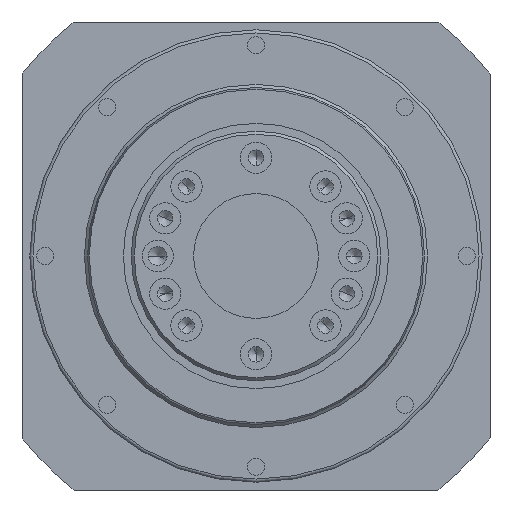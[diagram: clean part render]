
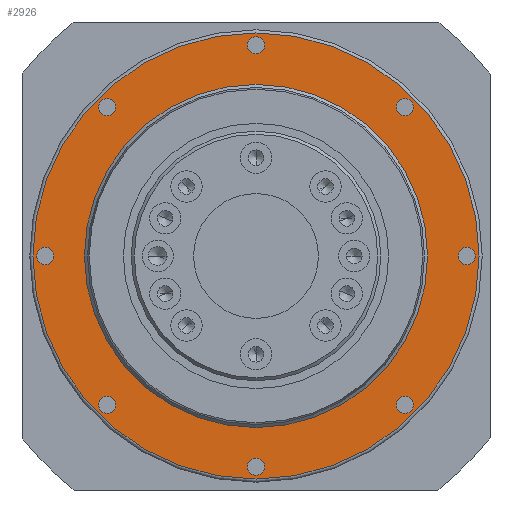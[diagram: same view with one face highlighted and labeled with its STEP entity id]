
A CAD part, left-side view. The second image highlights one B-rep face of the part: STEP entity #2926.
In plain terms, the highlighted planar face has unit normal (-1, 0, 0).
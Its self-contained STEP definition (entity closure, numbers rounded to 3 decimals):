
#2269=FACE_BOUND('',#4507,.T.);
#2270=FACE_BOUND('',#4508,.T.);
#2271=FACE_BOUND('',#4509,.T.);
#2272=FACE_BOUND('',#4510,.T.);
#2273=FACE_BOUND('',#4511,.T.);
#2274=FACE_BOUND('',#4512,.T.);
#2275=FACE_BOUND('',#4513,.T.);
#2276=FACE_BOUND('',#4514,.T.);
#2277=FACE_BOUND('',#4515,.T.);
#2278=FACE_BOUND('',#4516,.T.);
#2926=ADVANCED_FACE('',(#2269,#2270,#2271,#2272,#2273,#2274,#2275,#2276,
#2277,#2278),#3342,.T.);
#3342=PLANE('',#11036);
#4507=EDGE_LOOP('',(#6831));
#4508=EDGE_LOOP('',(#6832,#6833));
#4509=EDGE_LOOP('',(#6834,#6835));
#4510=EDGE_LOOP('',(#6836,#6837));
#4511=EDGE_LOOP('',(#6838,#6839));
#4512=EDGE_LOOP('',(#6840,#6841));
#4513=EDGE_LOOP('',(#6842,#6843));
#4514=EDGE_LOOP('',(#6844,#6845));
#4515=EDGE_LOOP('',(#6846));
#4516=EDGE_LOOP('',(#6847,#6848));
#6831=ORIENTED_EDGE('',*,*,#9317,.F.);
#6832=ORIENTED_EDGE('',*,*,#9331,.T.);
#6833=ORIENTED_EDGE('',*,*,#9332,.T.);
#6834=ORIENTED_EDGE('',*,*,#9333,.T.);
#6835=ORIENTED_EDGE('',*,*,#9334,.T.);
#6836=ORIENTED_EDGE('',*,*,#9335,.T.);
#6837=ORIENTED_EDGE('',*,*,#9336,.T.);
#6838=ORIENTED_EDGE('',*,*,#9337,.T.);
#6839=ORIENTED_EDGE('',*,*,#9338,.T.);
#6840=ORIENTED_EDGE('',*,*,#9339,.T.);
#6841=ORIENTED_EDGE('',*,*,#9340,.T.);
#6842=ORIENTED_EDGE('',*,*,#9341,.T.);
#6843=ORIENTED_EDGE('',*,*,#9342,.T.);
#6844=ORIENTED_EDGE('',*,*,#9343,.T.);
#6845=ORIENTED_EDGE('',*,*,#9344,.T.);
#6846=ORIENTED_EDGE('',*,*,#9330,.F.);
#6847=ORIENTED_EDGE('',*,*,#9345,.T.);
#6848=ORIENTED_EDGE('',*,*,#9346,.T.);
#8073=VERTEX_POINT('',#17295);
#8086=VERTEX_POINT('',#17328);
#8087=VERTEX_POINT('',#17332);
#8088=VERTEX_POINT('',#17333);
#8089=VERTEX_POINT('',#17336);
#8090=VERTEX_POINT('',#17337);
#8091=VERTEX_POINT('',#17340);
#8092=VERTEX_POINT('',#17341);
#8093=VERTEX_POINT('',#17344);
#8094=VERTEX_POINT('',#17345);
#8095=VERTEX_POINT('',#17348);
#8096=VERTEX_POINT('',#17349);
#8097=VERTEX_POINT('',#17352);
#8098=VERTEX_POINT('',#17353);
#8099=VERTEX_POINT('',#17356);
#8100=VERTEX_POINT('',#17357);
#8101=VERTEX_POINT('',#17360);
#8102=VERTEX_POINT('',#17361);
#9317=EDGE_CURVE('',#8073,#8073,#9968,.T.);
#9330=EDGE_CURVE('',#8086,#8086,#9981,.T.);
#9331=EDGE_CURVE('',#8087,#8088,#9982,.T.);
#9332=EDGE_CURVE('',#8088,#8087,#9983,.T.);
#9333=EDGE_CURVE('',#8089,#8090,#9984,.T.);
#9334=EDGE_CURVE('',#8090,#8089,#9985,.T.);
#9335=EDGE_CURVE('',#8091,#8092,#9986,.T.);
#9336=EDGE_CURVE('',#8092,#8091,#9987,.T.);
#9337=EDGE_CURVE('',#8093,#8094,#9988,.T.);
#9338=EDGE_CURVE('',#8094,#8093,#9989,.T.);
#9339=EDGE_CURVE('',#8095,#8096,#9990,.T.);
#9340=EDGE_CURVE('',#8096,#8095,#9991,.T.);
#9341=EDGE_CURVE('',#8097,#8098,#9992,.T.);
#9342=EDGE_CURVE('',#8098,#8097,#9993,.T.);
#9343=EDGE_CURVE('',#8099,#8100,#9994,.T.);
#9344=EDGE_CURVE('',#8100,#8099,#9995,.T.);
#9345=EDGE_CURVE('',#8101,#8102,#9996,.T.);
#9346=EDGE_CURVE('',#8102,#8101,#9997,.T.);
#9968=CIRCLE('',#10997,71.5);
#9981=CIRCLE('',#11017,55.);
#9982=CIRCLE('',#11020,2.75);
#9983=CIRCLE('',#11021,2.75);
#9984=CIRCLE('',#11022,2.75);
#9985=CIRCLE('',#11023,2.75);
#9986=CIRCLE('',#11024,2.75);
#9987=CIRCLE('',#11025,2.75);
#9988=CIRCLE('',#11026,2.75);
#9989=CIRCLE('',#11027,2.75);
#9990=CIRCLE('',#11028,2.75);
#9991=CIRCLE('',#11029,2.75);
#9992=CIRCLE('',#11030,2.75);
#9993=CIRCLE('',#11031,2.75);
#9994=CIRCLE('',#11032,2.75);
#9995=CIRCLE('',#11033,2.75);
#9996=CIRCLE('',#11034,2.75);
#9997=CIRCLE('',#11035,2.75);
#10997=AXIS2_PLACEMENT_3D('',#17294,#13655,#13656);
#11017=AXIS2_PLACEMENT_3D('',#17327,#13695,#13696);
#11020=AXIS2_PLACEMENT_3D('',#17331,#13701,#13702);
#11021=AXIS2_PLACEMENT_3D('',#17334,#13703,#13704);
#11022=AXIS2_PLACEMENT_3D('',#17335,#13705,#13706);
#11023=AXIS2_PLACEMENT_3D('',#17338,#13707,#13708);
#11024=AXIS2_PLACEMENT_3D('',#17339,#13709,#13710);
#11025=AXIS2_PLACEMENT_3D('',#17342,#13711,#13712);
#11026=AXIS2_PLACEMENT_3D('',#17343,#13713,#13714);
#11027=AXIS2_PLACEMENT_3D('',#17346,#13715,#13716);
#11028=AXIS2_PLACEMENT_3D('',#17347,#13717,#13718);
#11029=AXIS2_PLACEMENT_3D('',#17350,#13719,#13720);
#11030=AXIS2_PLACEMENT_3D('',#17351,#13721,#13722);
#11031=AXIS2_PLACEMENT_3D('',#17354,#13723,#13724);
#11032=AXIS2_PLACEMENT_3D('',#17355,#13725,#13726);
#11033=AXIS2_PLACEMENT_3D('',#17358,#13727,#13728);
#11034=AXIS2_PLACEMENT_3D('',#17359,#13729,#13730);
#11035=AXIS2_PLACEMENT_3D('',#17362,#13731,#13732);
#11036=AXIS2_PLACEMENT_3D('',#17363,#13733,#13734);
#13655=DIRECTION('',(1.,0.,0.));
#13656=DIRECTION('',(0.,-1.,0.));
#13695=DIRECTION('',(-1.,0.,0.));
#13696=DIRECTION('',(0.,1.,0.));
#13701=DIRECTION('',(1.,0.,0.));
#13702=DIRECTION('',(0.,1.,0.));
#13703=DIRECTION('',(1.,0.,0.));
#13704=DIRECTION('',(0.,-1.,0.));
#13705=DIRECTION('',(1.,0.,0.));
#13706=DIRECTION('',(0.,1.,0.));
#13707=DIRECTION('',(1.,0.,0.));
#13708=DIRECTION('',(0.,-1.,0.));
#13709=DIRECTION('',(1.,0.,0.));
#13710=DIRECTION('',(0.,1.,0.));
#13711=DIRECTION('',(1.,0.,0.));
#13712=DIRECTION('',(0.,-1.,0.));
#13713=DIRECTION('',(1.,0.,0.));
#13714=DIRECTION('',(0.,1.,0.));
#13715=DIRECTION('',(1.,0.,0.));
#13716=DIRECTION('',(0.,-1.,0.));
#13717=DIRECTION('',(1.,0.,0.));
#13718=DIRECTION('',(0.,1.,0.));
#13719=DIRECTION('',(1.,0.,0.));
#13720=DIRECTION('',(0.,-1.,0.));
#13721=DIRECTION('',(1.,0.,0.));
#13722=DIRECTION('',(0.,1.,0.));
#13723=DIRECTION('',(1.,0.,0.));
#13724=DIRECTION('',(0.,-1.,0.));
#13725=DIRECTION('',(1.,0.,0.));
#13726=DIRECTION('',(0.,1.,0.));
#13727=DIRECTION('',(1.,0.,0.));
#13728=DIRECTION('',(0.,-1.,0.));
#13729=DIRECTION('',(1.,0.,0.));
#13730=DIRECTION('',(0.,1.,0.));
#13731=DIRECTION('',(1.,0.,0.));
#13732=DIRECTION('',(0.,-1.,0.));
#13733=DIRECTION('',(-1.,0.,0.));
#13734=DIRECTION('',(0.,-1.,0.));
#17294=CARTESIAN_POINT('',(-50.5,0.,0.));
#17295=CARTESIAN_POINT('',(-50.5,-71.5,0.));
#17327=CARTESIAN_POINT('',(-50.5,0.,0.));
#17328=CARTESIAN_POINT('',(-50.5,55.,0.));
#17331=CARTESIAN_POINT('',(-50.5,47.73,47.73));
#17332=CARTESIAN_POINT('',(-50.5,50.48,47.73));
#17333=CARTESIAN_POINT('',(-50.5,44.98,47.73));
#17334=CARTESIAN_POINT('',(-50.5,47.73,47.73));
#17335=CARTESIAN_POINT('',(-50.5,0.,67.5));
#17336=CARTESIAN_POINT('',(-50.5,2.75,67.5));
#17337=CARTESIAN_POINT('',(-50.5,-2.75,67.5));
#17338=CARTESIAN_POINT('',(-50.5,0.,67.5));
#17339=CARTESIAN_POINT('',(-50.5,-47.73,47.73));
#17340=CARTESIAN_POINT('',(-50.5,-44.98,47.73));
#17341=CARTESIAN_POINT('',(-50.5,-50.48,47.73));
#17342=CARTESIAN_POINT('',(-50.5,-47.73,47.73));
#17343=CARTESIAN_POINT('',(-50.5,-67.5,0.));
#17344=CARTESIAN_POINT('',(-50.5,-64.75,0.));
#17345=CARTESIAN_POINT('',(-50.5,-70.25,0.));
#17346=CARTESIAN_POINT('',(-50.5,-67.5,0.));
#17347=CARTESIAN_POINT('',(-50.5,-47.73,-47.73));
#17348=CARTESIAN_POINT('',(-50.5,-44.98,-47.73));
#17349=CARTESIAN_POINT('',(-50.5,-50.48,-47.73));
#17350=CARTESIAN_POINT('',(-50.5,-47.73,-47.73));
#17351=CARTESIAN_POINT('',(-50.5,0.,-67.5));
#17352=CARTESIAN_POINT('',(-50.5,2.75,-67.5));
#17353=CARTESIAN_POINT('',(-50.5,-2.75,-67.5));
#17354=CARTESIAN_POINT('',(-50.5,0.,-67.5));
#17355=CARTESIAN_POINT('',(-50.5,47.73,-47.73));
#17356=CARTESIAN_POINT('',(-50.5,50.48,-47.73));
#17357=CARTESIAN_POINT('',(-50.5,44.98,-47.73));
#17358=CARTESIAN_POINT('',(-50.5,47.73,-47.73));
#17359=CARTESIAN_POINT('',(-50.5,67.5,0.));
#17360=CARTESIAN_POINT('',(-50.5,70.25,0.));
#17361=CARTESIAN_POINT('',(-50.5,64.75,0.));
#17362=CARTESIAN_POINT('',(-50.5,67.5,0.));
#17363=CARTESIAN_POINT('',(-50.5,0.,0.));
